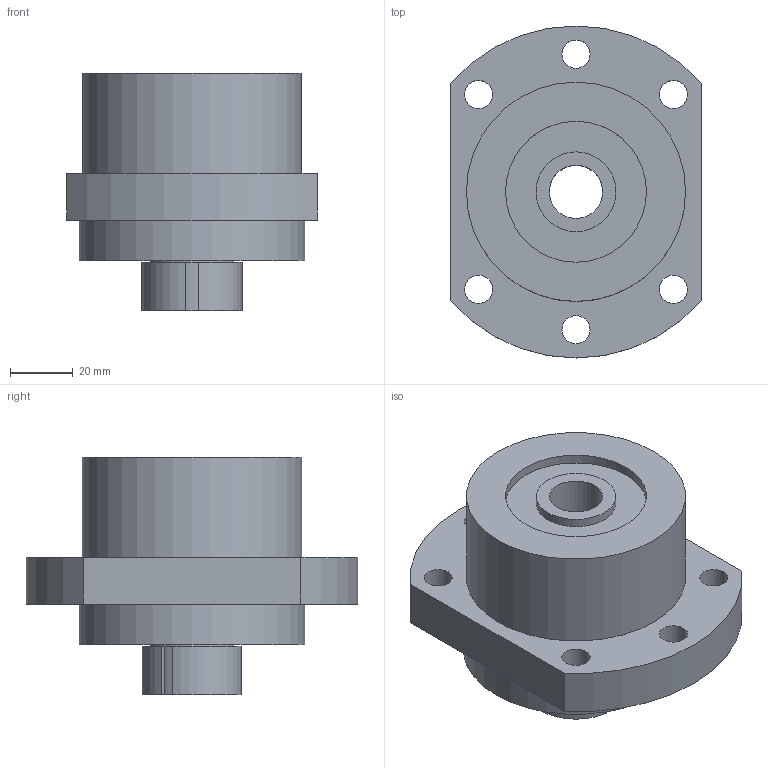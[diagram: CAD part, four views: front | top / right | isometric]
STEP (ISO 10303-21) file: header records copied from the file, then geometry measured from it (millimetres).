
FILE_DESCRIPTION(/* description */ (''),/* implementation_level */ '2;1');
FILE_NAME(/* name */ 'C:\Users\tenki620635\Desktop\官網\圖面\軸承座\3D\setp檔\WBK17 DF.stp',/* time_stamp */ '2020-12-21T09:59:05+08:00',/* author */ ('tenki620635'),/* organization */ (''),/* preprocessor_version */ 'ST-DEVELOPER v15.2',/* originating_system */ 'Autodesk Inventor 2014',/* authorisation */ '');
FILE_SCHEMA (('AUTOMOTIVE_DESIGN { 1 0 10303 214 3 1 1 }'));
Length unit declared in the file: millimetre
Products named in the file (1): WBK17 DF-Atype
Bounding box: 80 x 106 x 76 mm (x, y, z)
Volume: 268135.9 mm3; surface area: 39773.1 mm2
Topology: 1 solids, 1 shells, 52 faces, 108 edges, 72 vertices
Faces by surface type: cylinder 28, plane 24
Full cylindrical faces by diameter (mm): 9 x6, 14 x6, 17 x1, 25.5 x2, 27 x1, 45 x2, 70 x1, 72 x1
Entity records: 1357 total; most frequent: DIRECTION 250, CARTESIAN_POINT 213, ORIENTED_EDGE 176, AXIS2_PLACEMENT_3D 109, EDGE_LOOP 100, EDGE_CURVE 88, VERTEX_POINT 72, CIRCLE 56
